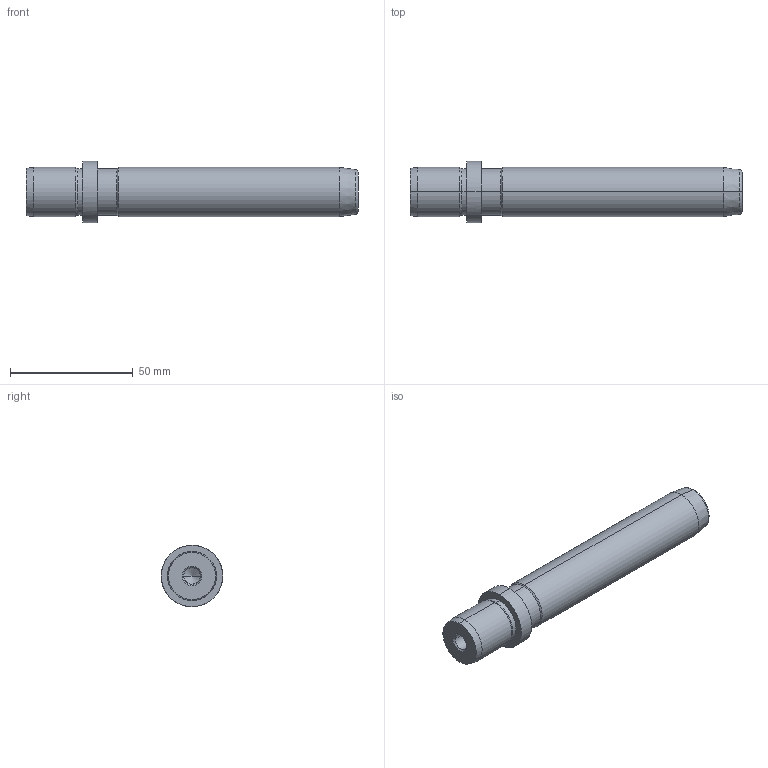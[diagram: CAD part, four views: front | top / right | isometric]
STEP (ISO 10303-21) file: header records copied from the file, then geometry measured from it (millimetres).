
FILE_DESCRIPTION(('CATIA V5 STEP Exchange'),'2;1');
FILE_NAME('C:\Users\Utente\Desktop\IO LAVORO\3D X SITO CF\X SITO\718\718-20x112.stp','2021-01-02T15:26:53+00:00',('none'),('none'),'CATIA Version 5 Release 20 GA (IN-10)','CATIA V5 STEP AP203','none');
FILE_SCHEMA(('CONFIG_CONTROL_DESIGN'));
Length unit declared in the file: millimetre
Products named in the file (1): 718-20x112
Bounding box: 135 x 25 x 25 mm (x, y, z)
Volume: 41136.9 mm3; surface area: 10475.7 mm2
Topology: 1 solids, 1 shells, 36 faces, 100 edges, 66 vertices
Faces by surface type: cone 16, cylinder 14, plane 4, torus 2
Entity records: 1291 total; most frequent: CARTESIAN_POINT 362, ORIENTED_EDGE 192, DIRECTION 157, EDGE_CURVE 96, AXIS2_PLACEMENT_3D 92, VERTEX_POINT 66, CIRCLE 55, EDGE_LOOP 40
